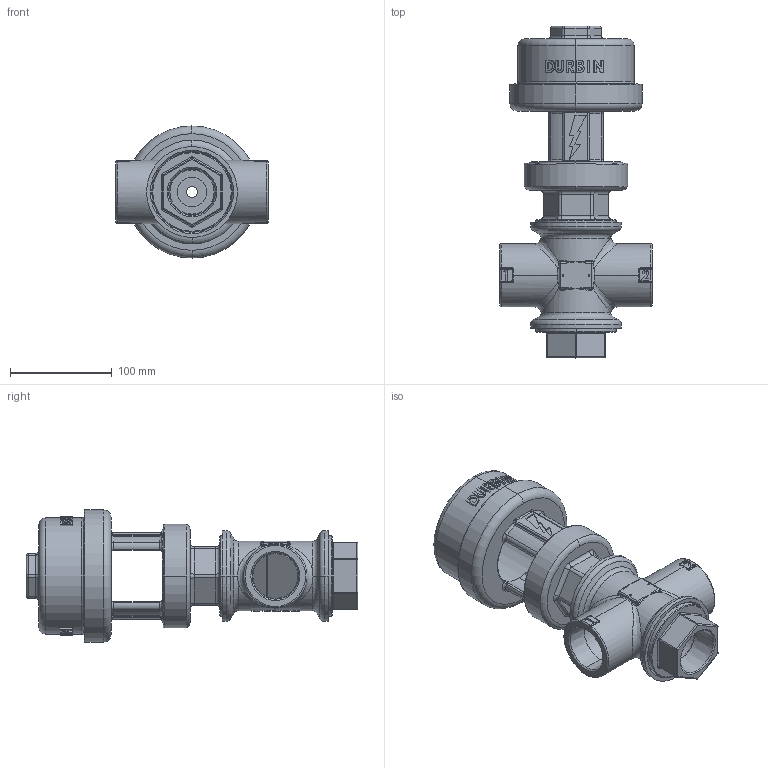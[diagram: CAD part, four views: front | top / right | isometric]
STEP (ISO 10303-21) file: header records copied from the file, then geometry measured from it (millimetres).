
FILE_DESCRIPTION (( 'STEP AP203' ), '1' );
FILE_NAME ('1.50 2W-3W NPT PSI-STEP.STEP', '2018-11-07T19:17:31', ( '' ), ( '' ), 'SwSTEP 2.0', 'SolidWorks 2012', '' );
FILE_SCHEMA (( 'CONFIG_CONTROL_DESIGN' ));
Products named in the file (6): 1.50 2W-3W NPT PSI-STEP; PSI-502-SS; DCT-303; PSI-509-SS; DCT-305; PSI-501-SS
Assembly tree (5 placements, depth 2):
  1.50 2W-3W NPT PSI-STEP
    PSI-501-SS
    DCT-305
    PSI-509-SS
    DCT-303
    PSI-502-SS
Bounding box: 149.86 x 327.02 x 130.18 mm (x, y, z)
Volume: 972916.3 mm3; surface area: 295891.1 mm2
Topology: 5 solids, 5 shells, 1031 faces, 2450 edges, 1457 vertices
Faces by surface type: plane 297, cylinder 247, bspline 218, torus 173, cone 72, sphere 24
Entity records: 42583 total; most frequent: CARTESIAN_POINT 19285, ORIENTED_EDGE 4824, DIRECTION 4632, EDGE_CURVE 2412, AXIS2_PLACEMENT_3D 1833, VERTEX_POINT 1457, EDGE_LOOP 1115, ADVANCED_FACE 1031
